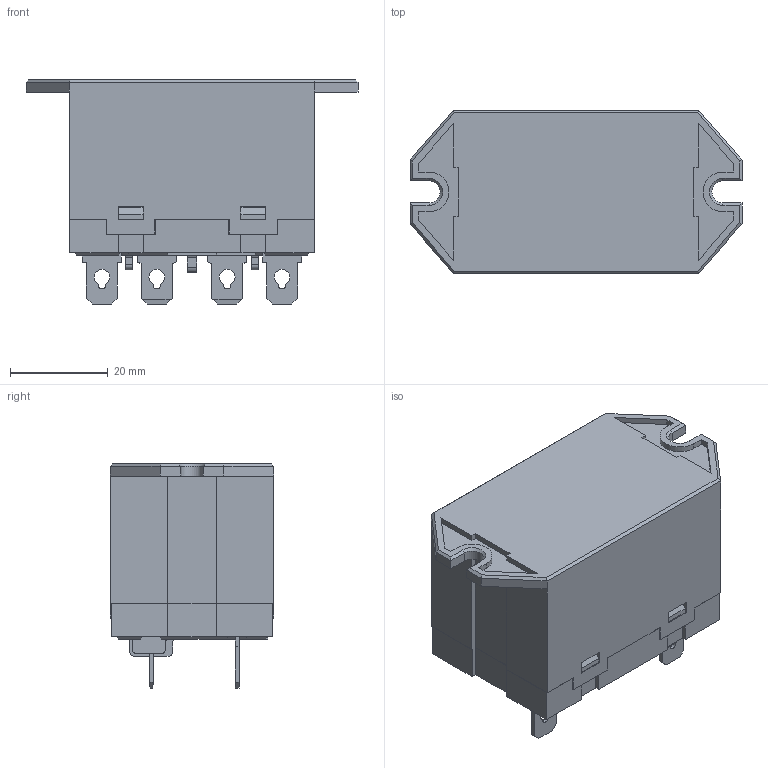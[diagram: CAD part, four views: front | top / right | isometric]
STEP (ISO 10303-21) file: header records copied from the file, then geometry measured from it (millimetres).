
FILE_DESCRIPTION (( 'STEP AP203' ), '1' );
FILE_NAME ('76F 一组1A插入式顶耳外壳OU 外形.STEP', '2022-12-26T00:45:36', ( '' ), ( '' ), 'SwSTEP 2.0', 'SolidWorks 2018', '' );
FILE_SCHEMA (( 'CONFIG_CONTROL_DESIGN' ));
Length unit declared in the file: millimetre
Products named in the file (1): 76F  一组1A插入式顶耳外壳OU 外形
Bounding box: 67.8 x 33.4 x 45.8 mm (x, y, z)
Volume: 59582.2 mm3; surface area: 11519.7 mm2
Topology: 1 solids, 7 shells, 377 faces, 1012 edges, 667 vertices
Faces by surface type: plane 323, cylinder 52, cone 2
Entity records: 11689 total; most frequent: CARTESIAN_POINT 2057, ORIENTED_EDGE 2024, DIRECTION 1874, EDGE_CURVE 1012, VECTOR 906, LINE 906, VERTEX_POINT 667, AXIS2_PLACEMENT_3D 484
